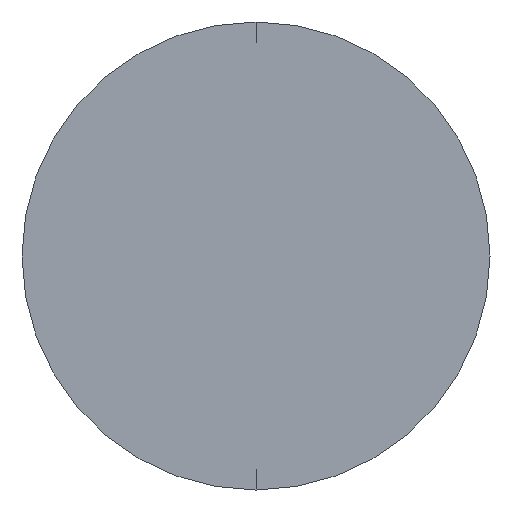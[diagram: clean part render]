
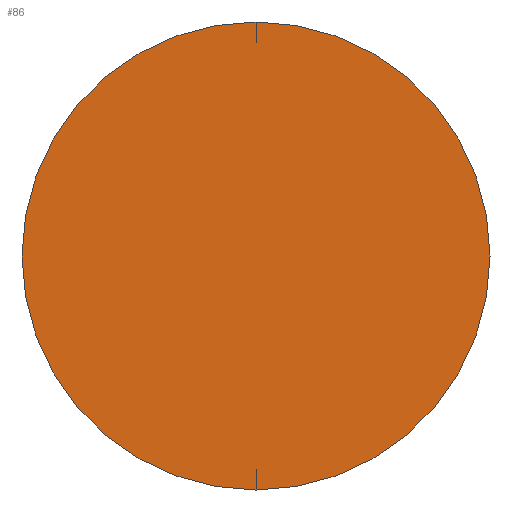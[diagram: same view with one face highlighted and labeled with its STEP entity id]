
A CAD part, left-side view. The second image highlights one B-rep face of the part: STEP entity #86.
In plain terms, the highlighted planar face has unit normal (-1, 0, 0).
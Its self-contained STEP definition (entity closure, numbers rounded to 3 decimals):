
#32 = CIRCLE ( 'NONE', #281, 2. ) ;
#38 = CARTESIAN_POINT ( 'NONE',  ( 0., 0., 2. ) ) ;
#56 = DIRECTION ( 'NONE',  ( 0., 0., 1. ) ) ;
#76 = VERTEX_POINT ( 'NONE', #38 ) ;
#81 = FACE_OUTER_BOUND ( 'NONE', #220, .T. ) ;
#86 = ADVANCED_FACE ( 'NONE', ( #81 ), #92, .F. ) ;
#92 = PLANE ( 'NONE',  #211 ) ;
#101 = DIRECTION ( 'NONE',  ( -1., 0., 0. ) ) ;
#102 = DIRECTION ( 'NONE',  ( 0., 0., 1. ) ) ;
#109 = AXIS2_PLACEMENT_3D ( 'NONE', #120, #236, #102 ) ;
#120 = CARTESIAN_POINT ( 'NONE',  ( 0., 0., 0. ) ) ;
#132 = ORIENTED_EDGE ( 'NONE', *, *, #280, .T. ) ;
#155 = CARTESIAN_POINT ( 'NONE',  ( 0., 0., -2. ) ) ;
#158 = CIRCLE ( 'NONE', #109, 2. ) ;
#178 = VERTEX_POINT ( 'NONE', #155 ) ;
#180 = DIRECTION ( 'NONE',  ( 0., 0., -1. ) ) ;
#211 = AXIS2_PLACEMENT_3D ( 'NONE', #227, #244, #180 ) ;
#220 = EDGE_LOOP ( 'NONE', ( #132, #226 ) ) ;
#221 = EDGE_CURVE ( 'NONE', #178, #76, #158, .T. ) ;
#226 = ORIENTED_EDGE ( 'NONE', *, *, #221, .T. ) ;
#227 = CARTESIAN_POINT ( 'NONE',  ( 0., 0., 0. ) ) ;
#233 = CARTESIAN_POINT ( 'NONE',  ( 0., 0., 0. ) ) ;
#236 = DIRECTION ( 'NONE',  ( -1., 0., 0. ) ) ;
#244 = DIRECTION ( 'NONE',  ( 1., 0., 0. ) ) ;
#280 = EDGE_CURVE ( 'NONE', #76, #178, #32, .T. ) ;
#281 = AXIS2_PLACEMENT_3D ( 'NONE', #233, #101, #56 ) ;
